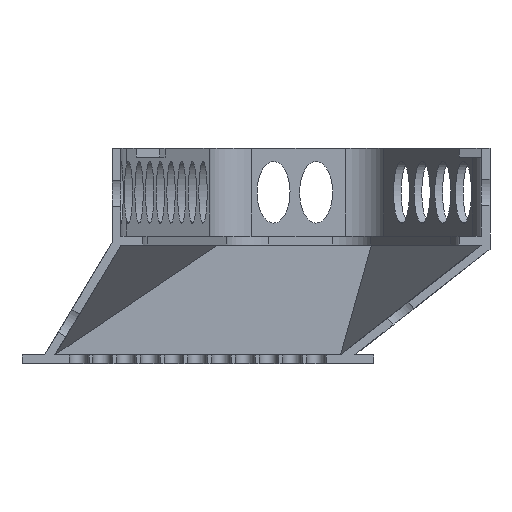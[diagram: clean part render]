
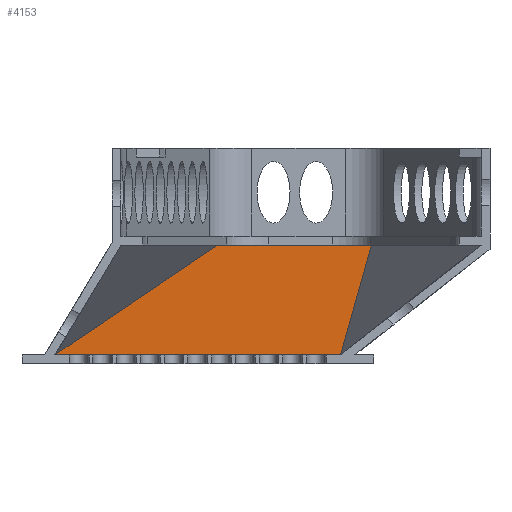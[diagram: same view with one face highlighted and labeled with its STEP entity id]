
A CAD part, left-side view. The second image highlights one B-rep face of the part: STEP entity #4153.
In plain terms, the highlighted planar face has unit normal (-1, 0, 0).
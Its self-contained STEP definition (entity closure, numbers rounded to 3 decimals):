
#946=ORIENTED_EDGE('',*,*,#1878,.T.);
#947=ORIENTED_EDGE('',*,*,#1879,.T.);
#948=ORIENTED_EDGE('',*,*,#1876,.F.);
#949=ORIENTED_EDGE('',*,*,#1757,.F.);
#950=ORIENTED_EDGE('',*,*,#1573,.T.);
#951=ORIENTED_EDGE('',*,*,#1754,.T.);
#1573=EDGE_CURVE('',#2065,#2064,#2480,.T.);
#1754=EDGE_CURVE('',#2064,#2240,#2497,.T.);
#1757=EDGE_CURVE('',#2065,#2241,#2500,.T.);
#1876=EDGE_CURVE('',#2241,#2340,#2556,.T.);
#1878=EDGE_CURVE('',#2240,#2341,#2558,.T.);
#1879=EDGE_CURVE('',#2341,#2340,#2559,.F.);
#2064=VERTEX_POINT('',#6148);
#2065=VERTEX_POINT('',#6150);
#2240=VERTEX_POINT('',#6588);
#2241=VERTEX_POINT('',#6592);
#2340=VERTEX_POINT('',#6832);
#2341=VERTEX_POINT('',#6836);
#2480=LINE('',#6149,#2702);
#2497=LINE('',#6589,#2719);
#2500=LINE('',#6595,#2722);
#2556=LINE('',#6831,#2778);
#2558=LINE('',#6835,#2780);
#2559=LINE('',#6837,#2781);
#2702=VECTOR('',#4855,1000.);
#2719=VECTOR('',#5366,1000.);
#2722=VECTOR('',#5371,1000.);
#2778=VECTOR('',#5579,1000.);
#2780=VECTOR('',#5583,1000.);
#2781=VECTOR('',#5584,1000.);
#3103=EDGE_LOOP('',(#946,#947,#948,#949,#950,#951));
#3661=FACE_BOUND('',#3103,.T.);
#3997=PLANE('',#4615);
#4153=ADVANCED_FACE('',(#3661),#3997,.T.);
#4615=AXIS2_PLACEMENT_3D('',#6834,#5581,#5582);
#4855=DIRECTION('',(0.,-1.,0.));
#5366=DIRECTION('',(0.,0.,1.));
#5371=DIRECTION('',(0.,0.,1.));
#5579=DIRECTION('',(0.,-0.829,0.56));
#5581=DIRECTION('',(-1.,0.,0.));
#5582=DIRECTION('',(0.,0.,1.));
#5583=DIRECTION('',(0.,-0.27,0.963));
#5584=DIRECTION('',(0.,-1.,0.));
#6148=CARTESIAN_POINT('',(180.316,-36.58,-2.));
#6149=CARTESIAN_POINT('',(180.316,28.42,-2.));
#6150=CARTESIAN_POINT('',(180.316,28.42,-2.));
#6588=CARTESIAN_POINT('',(180.316,-36.58,0.));
#6589=CARTESIAN_POINT('',(180.316,-36.58,-2.));
#6592=CARTESIAN_POINT('',(180.316,28.42,0.));
#6595=CARTESIAN_POINT('',(180.316,28.42,-2.));
#6831=CARTESIAN_POINT('',(180.316,28.42,0.));
#6832=CARTESIAN_POINT('',(180.316,-8.58,25.));
#6834=CARTESIAN_POINT('',(180.316,0.,0.));
#6835=CARTESIAN_POINT('',(180.316,-43.58,25.));
#6836=CARTESIAN_POINT('',(180.316,-43.58,25.));
#6837=CARTESIAN_POINT('',(180.316,0.,25.));
